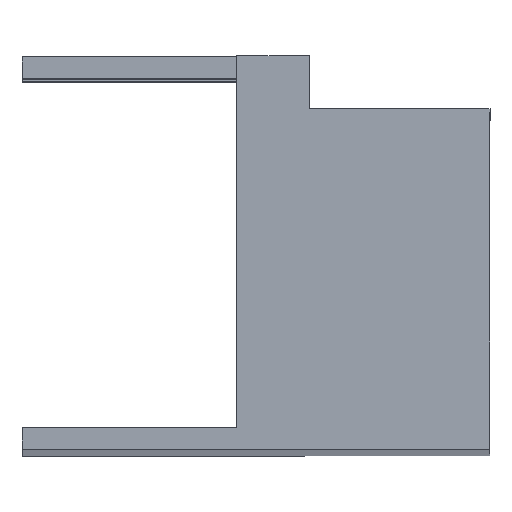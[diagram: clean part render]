
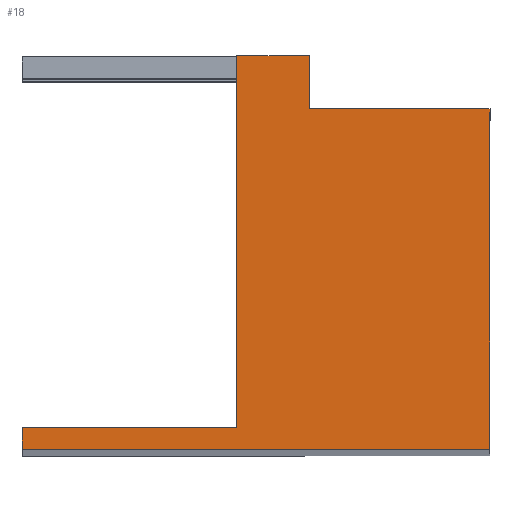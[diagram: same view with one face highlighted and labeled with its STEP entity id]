
A CAD part, top view. The second image highlights one B-rep face of the part: STEP entity #18.
In plain terms, the highlighted planar face has unit normal (0, 0, 1).
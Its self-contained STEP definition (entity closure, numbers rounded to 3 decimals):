
#18 = ADVANCED_FACE ( 'NONE', ( #193 ), #493, .F. ) ;
#157 = ORIENTED_EDGE ( 'NONE', *, *, #1006, .T. ) ;
#168 = ORIENTED_EDGE ( 'NONE', *, *, #1023, .T. ) ;
#169 = ORIENTED_EDGE ( 'NONE', *, *, #996, .T. ) ;
#174 = ORIENTED_EDGE ( 'NONE', *, *, #956, .T. ) ;
#175 = ORIENTED_EDGE ( 'NONE', *, *, #958, .T. ) ;
#180 = ORIENTED_EDGE ( 'NONE', *, *, #1017, .T. ) ;
#186 = EDGE_LOOP ( 'NONE', ( #168, #169, #283, #250, #175, #157, #180, #174 ) ) ;
#193 = FACE_OUTER_BOUND ( 'NONE', #186, .T. ) ;
#250 = ORIENTED_EDGE ( 'NONE', *, *, #981, .T. ) ;
#265 = LINE ( 'NONE', #901, #426 ) ;
#281 = LINE ( 'NONE', #774, #453 ) ;
#283 = ORIENTED_EDGE ( 'NONE', *, *, #1024, .T. ) ;
#327 = VECTOR ( 'NONE', #718, 1000. ) ;
#364 = LINE ( 'NONE', #704, #443 ) ;
#374 = LINE ( 'NONE', #756, #409 ) ;
#402 = VECTOR ( 'NONE', #700, 1000. ) ;
#404 = LINE ( 'NONE', #781, #449 ) ;
#409 = VECTOR ( 'NONE', #758, 1000. ) ;
#411 = LINE ( 'NONE', #783, #451 ) ;
#413 = LINE ( 'NONE', #648, #402 ) ;
#426 = VECTOR ( 'NONE', #647, 1000. ) ;
#443 = VECTOR ( 'NONE', #703, 1000. ) ;
#449 = VECTOR ( 'NONE', #782, 1000. ) ;
#451 = VECTOR ( 'NONE', #784, 1000. ) ;
#453 = VECTOR ( 'NONE', #775, 1000. ) ;
#458 = LINE ( 'NONE', #717, #327 ) ;
#479 = VERTEX_POINT ( 'NONE', #602 ) ;
#493 = PLANE ( 'NONE',  #1002 ) ;
#512 = DIRECTION ( 'NONE',  ( 0., -1., 0. ) ) ;
#513 = DIRECTION ( 'NONE',  ( 0., 0., -1. ) ) ;
#563 = CARTESIAN_POINT ( 'NONE',  ( 9.5, 1., 136.1 ) ) ;
#575 = CARTESIAN_POINT ( 'NONE',  ( 6.1, -16.5, 136.1 ) ) ;
#578 = CARTESIAN_POINT ( 'NONE',  ( 18., -1.5, 136.1 ) ) ;
#583 = CARTESIAN_POINT ( 'NONE',  ( 18., -17.5, 136.1 ) ) ;
#585 = CARTESIAN_POINT ( 'NONE',  ( -4., -17.5, 136.1 ) ) ;
#588 = CARTESIAN_POINT ( 'NONE',  ( -4., -16.5, 136.1 ) ) ;
#602 = CARTESIAN_POINT ( 'NONE',  ( 9.5, -1.5, 136.1 ) ) ;
#631 = CARTESIAN_POINT ( 'NONE',  ( 6.1, 1., 136.1 ) ) ;
#647 = DIRECTION ( 'NONE',  ( 1., 0., 0. ) ) ;
#648 = CARTESIAN_POINT ( 'NONE',  ( 6.1, -16.5, 136.1 ) ) ;
#700 = DIRECTION ( 'NONE',  ( 0., -1., 0. ) ) ;
#703 = DIRECTION ( 'NONE',  ( -1., 0., 0. ) ) ;
#704 = CARTESIAN_POINT ( 'NONE',  ( 9.5, -1.5, 136.1 ) ) ;
#717 = CARTESIAN_POINT ( 'NONE',  ( 6.1, 1., 136.1 ) ) ;
#718 = DIRECTION ( 'NONE',  ( -1., 0., 0. ) ) ;
#756 = CARTESIAN_POINT ( 'NONE',  ( -4., -16.5, 136.1 ) ) ;
#758 = DIRECTION ( 'NONE',  ( -1., 0., 0. ) ) ;
#774 = CARTESIAN_POINT ( 'NONE',  ( -4., -17.5, 136.1 ) ) ;
#775 = DIRECTION ( 'NONE',  ( 0., -1., 0. ) ) ;
#781 = CARTESIAN_POINT ( 'NONE',  ( 18., -1.5, 136.1 ) ) ;
#782 = DIRECTION ( 'NONE',  ( 0., 1., 0. ) ) ;
#783 = CARTESIAN_POINT ( 'NONE',  ( 9.5, 1., 136.1 ) ) ;
#784 = DIRECTION ( 'NONE',  ( 0., 1., 0. ) ) ;
#861 = VERTEX_POINT ( 'NONE', #588 ) ;
#865 = VERTEX_POINT ( 'NONE', #585 ) ;
#869 = VERTEX_POINT ( 'NONE', #583 ) ;
#874 = VERTEX_POINT ( 'NONE', #631 ) ;
#891 = VERTEX_POINT ( 'NONE', #563 ) ;
#894 = CARTESIAN_POINT ( 'NONE',  ( 18., -17.5, 136.1 ) ) ;
#901 = CARTESIAN_POINT ( 'NONE',  ( 18., -17.5, 136.1 ) ) ;
#910 = VERTEX_POINT ( 'NONE', #578 ) ;
#913 = VERTEX_POINT ( 'NONE', #575 ) ;
#956 = EDGE_CURVE ( 'NONE', #865, #869, #265, .T. ) ;
#958 = EDGE_CURVE ( 'NONE', #874, #913, #413, .T. ) ;
#981 = EDGE_CURVE ( 'NONE', #891, #874, #458, .T. ) ;
#996 = EDGE_CURVE ( 'NONE', #910, #479, #364, .T. ) ;
#1002 = AXIS2_PLACEMENT_3D ( 'NONE', #894, #513, #512 ) ;
#1006 = EDGE_CURVE ( 'NONE', #913, #861, #374, .T. ) ;
#1017 = EDGE_CURVE ( 'NONE', #861, #865, #281, .T. ) ;
#1023 = EDGE_CURVE ( 'NONE', #869, #910, #404, .T. ) ;
#1024 = EDGE_CURVE ( 'NONE', #479, #891, #411, .T. ) ;
